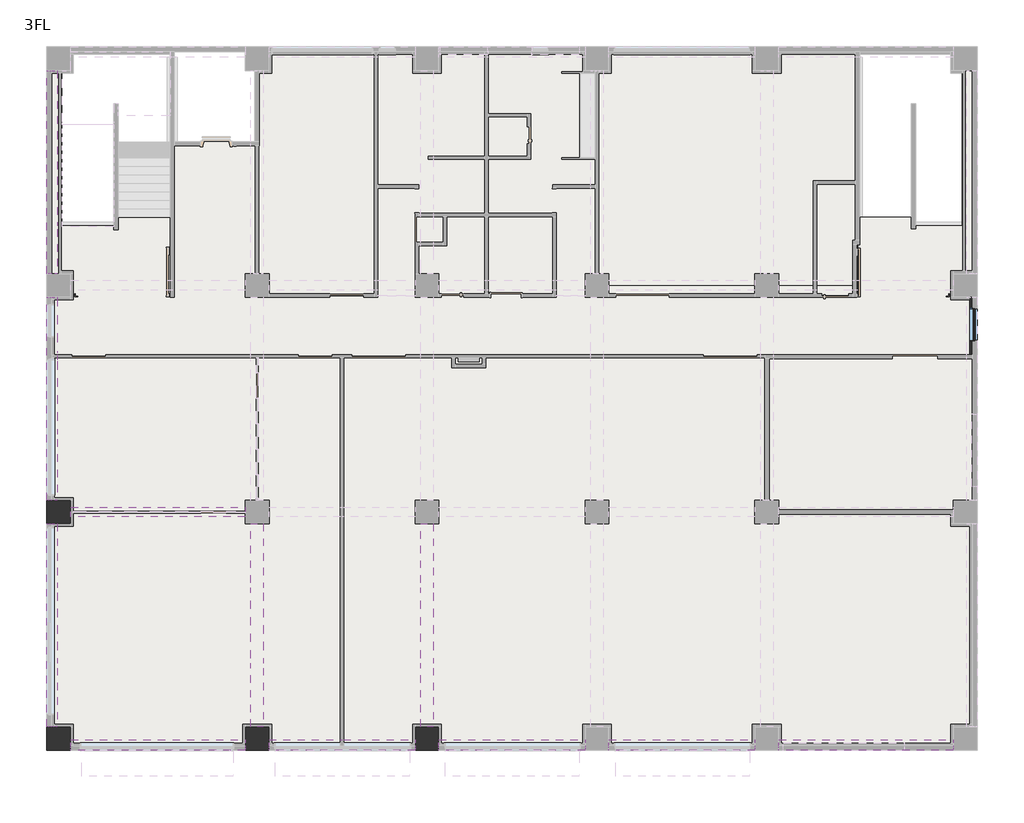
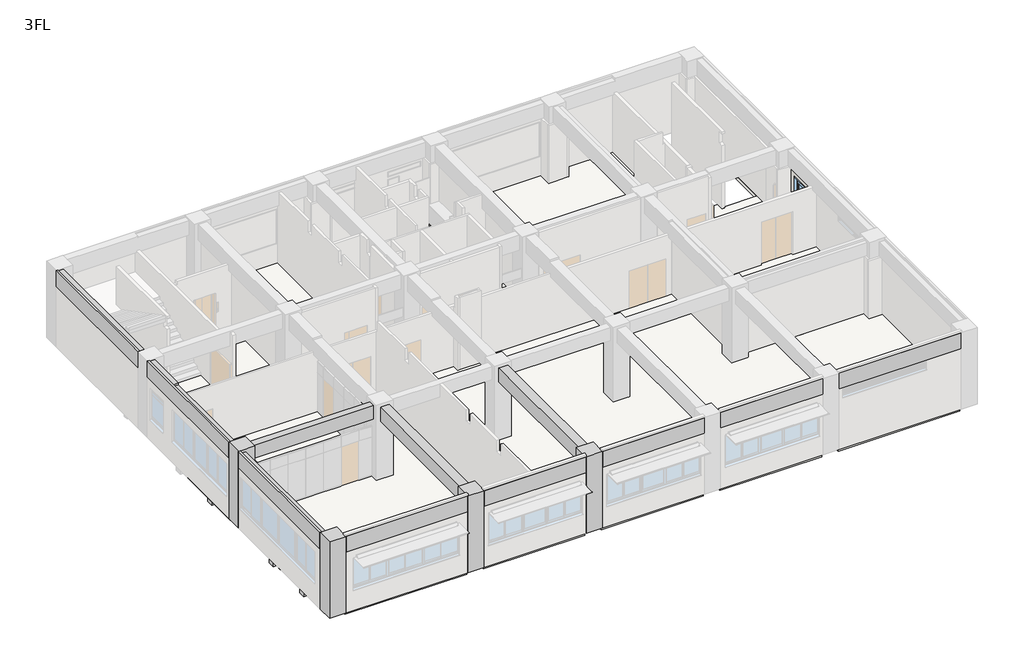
# One storey, part 4 of 6: 16 beams, 4 columns, 4 slabs, 1 wall, 1 window.
"""IFC4 building model written with IfcOpenShell, lengths in millimetres."""

from ifc_helpers import new_model, si_unit, frame, origin, place, context, project, spatial, polyline, outline, extrude, faceted_brep, transform, mapped, element, save
from components import aw6a_a2a86f3e

model = new_model("IFC4")

# Units and contexts
model_context = context("Model", 3, world=origin())
ifc_project = project(units=[si_unit("LENGTHUNIT", "METRE", prefix="MILLI")], contexts=[model_context])

# Site, building, storey
site = spatial("IfcSite", under=ifc_project)
building = spatial("IfcBuilding", under=site)
storey = spatial("IfcBuildingStorey", under=building, Name="3FL", Elevation=8200.0)

# Beams
placement = place(None, origin())
element("IfcBeam", 1, ObjectType="営_RC梁 : 2-RG1 350*850", at=placement, inside=storey, context=model_context, shape_type="Brep", body=[
    faceted_brep([(6580.0, -420.0, 11350.0), (6580.0, -420.0, 12200.0), (420.0, -420.0, 12200.0), (420.0, -420.0, 11350.0), (6580.0, -50.0, 11350.0), (6580.0, -250.0, 11350.0), (420.0, -250.0, 11350.0), (420.0, -50.0, 11350.0), (420.0, -50.0, 12050.0), (6580.0, -50.0, 12050.0), (6580.0, -325.0, 12200.0), (420.0, -325.0, 12200.0), (6580.0, -325.0, 12050.0), (420.0, -325.0, 12050.0)], [[[0, 1, 2, 3]], [[4, 5, 0, 3, 6, 7]], [[4, 7, 8, 9]], [[2, 1, 10, 11]], [[1, 0, 5, 4, 9, 12, 10]], [[3, 2, 11, 13, 8, 7, 6]], [[13, 12, 9, 8]], [[12, 13, 11, 10]]]),
])
element("IfcBeam", 2, ObjectType="営_RC梁 : 2-RG1 350*850", at=placement, inside=storey, context=model_context, shape_type="Brep", body=[
    faceted_brep([(7420.0, -420.0, 12200.0), (7420.0, -420.0, 11350.0), (12580.0, -420.0, 11350.0), (12580.0, -420.0, 12200.0), (7420.0, -250.0, 11350.0), (7420.0, -50.0, 11350.0), (9940.0, -50.0, 11350.0), (10060.0, -50.0, 11350.0), (12580.0, -50.0, 11350.0), (12580.0, -250.0, 11350.0), (7420.0, -50.0, 12050.0), (9940.0, -50.0, 12050.0), (10060.0, -50.0, 12050.0), (12580.0, -50.0, 12050.0), (12580.0, -325.0, 12200.0), (7420.0, -325.0, 12200.0), (7420.0, -325.0, 12050.0), (12580.0, -325.0, 12050.0)], [[[0, 1, 2, 3]], [[1, 4, 5, 6, 7, 8, 9, 2]], [[8, 7, 6, 5, 10, 11, 12, 13]], [[0, 3, 14, 15]], [[1, 0, 15, 16, 10, 5, 4]], [[3, 2, 9, 8, 13, 17, 14]], [[16, 17, 13, 12, 11, 10]], [[17, 16, 15, 14]]]),
])
element("IfcBeam", 3, ObjectType="営_RC梁 : 2-RG1 350*850", at=placement, inside=storey, context=model_context, shape_type="Brep", body=[
    faceted_brep([(13420.0, -420.0, 12200.0), (13420.0, -420.0, 11350.0), (18580.0, -420.0, 11350.0), (18580.0, -420.0, 12200.0), (13420.0, -250.0, 11350.0), (13420.0, -50.0, 11350.0), (18580.0, -50.0, 11350.0), (18580.0, -250.0, 11350.0), (13420.0, -50.0, 12050.0), (18580.0, -50.0, 12050.0), (18580.0, -325.0, 12200.0), (13420.0, -325.0, 12200.0), (13420.0, -325.0, 12050.0), (18580.0, -325.0, 12050.0)], [[[0, 1, 2, 3]], [[1, 4, 5, 6, 7, 2]], [[6, 5, 8, 9]], [[0, 3, 10, 11]], [[1, 0, 11, 12, 8, 5, 4]], [[3, 2, 7, 6, 9, 13, 10]], [[12, 13, 9, 8]], [[13, 12, 11, 10]]]),
])
element("IfcBeam", 4, ObjectType="営_RC梁 : 2-RG1 350*850", at=placement, inside=storey, context=model_context, shape_type="Brep", body=[
    faceted_brep([(19420.0, -420.0, 12200.0), (19420.0, -420.0, 11350.0), (24580.0, -420.0, 11350.0), (24580.0, -420.0, 12200.0), (19420.0, -250.0, 11350.0), (19420.0, -50.0, 11350.0), (24580.0, -50.0, 11350.0), (24580.0, -250.0, 11350.0), (19420.0, -50.0, 12050.0), (24580.0, -50.0, 12050.0), (24580.0, -325.0, 12200.0), (19420.0, -325.0, 12200.0), (19420.0, -325.0, 12050.0), (24580.0, -325.0, 12050.0)], [[[0, 1, 2, 3]], [[1, 4, 5, 6, 7, 2]], [[6, 5, 8, 9]], [[0, 3, 10, 11]], [[1, 0, 11, 12, 8, 5, 4]], [[3, 2, 7, 6, 9, 13, 10]], [[12, 13, 9, 8]], [[13, 12, 11, 10]]]),
])
element("IfcBeam", 5, ObjectType="営_RC梁 : 2-RG1 350*850", at=placement, inside=storey, context=model_context, shape_type="Brep", body=[
    faceted_brep([(25420.0, -420.0, 12200.0), (25420.0, -420.0, 11350.0), (31580.0, -420.0, 11350.0), (31580.0, -420.0, 12200.0), (25420.0, -250.0, 11350.0), (25420.0, -50.0, 11350.0), (31580.0, -50.0, 11350.0), (31580.0, -250.0, 11350.0), (25420.0, -50.0, 12050.0), (31580.0, -50.0, 12050.0), (31580.0, -325.0, 12200.0), (25420.0, -325.0, 12200.0), (25420.0, -325.0, 12050.0), (31580.0, -325.0, 12050.0)], [[[0, 1, 2, 3]], [[1, 4, 5, 6, 7, 2]], [[6, 5, 8, 9]], [[0, 3, 10, 11]], [[1, 0, 11, 12, 8, 5, 4]], [[3, 2, 7, 6, 9, 13, 10]], [[12, 13, 9, 8]], [[13, 12, 11, 10]]]),
])
element("IfcBeam", 6, ObjectType="営_RC梁 : 2-RG11 350*900", at=placement, inside=storey, context=model_context, shape_type="Brep", body=[
    faceted_brep([(-50.0, 420.0, 11300.0), (-50.0, 7580.0, 11300.0), (-50.0, 7580.0, 12050.0), (-50.0, 5505.0, 12050.0), (-50.0, 5155.0, 12050.0), (-50.0, 2835.0, 12050.0), (-50.0, 2485.0, 12050.0), (-50.0, 420.0, 12050.0), (-420.0, 7580.0, 11300.0), (-250.0, 7580.0, 11300.0), (-160.0, 420.0, 11300.0), (-250.0, 420.0, 11300.0), (-420.0, 420.0, 11300.0), (-420.0, 7580.0, 12200.0), (-420.0, 420.0, 12200.0), (-335.0, 420.0, 12200.0), (-335.0, 7580.0, 12200.0), (-335.0, 7580.0, 12050.0), (-335.0, 420.0, 12050.0)], [[[0, 1, 2, 3, 4, 5, 6, 7]], [[8, 9, 1, 0, 10, 11, 12]], [[13, 8, 12, 14]], [[13, 14, 15, 16]], [[1, 9, 8, 13, 16, 17, 2]], [[12, 11, 10, 0, 7, 18, 15, 14]], [[17, 18, 7, 6, 5, 4, 3, 2]], [[18, 17, 16, 15]]]),
])
element("IfcBeam", 7, ObjectType="営_RC梁 : 2-RG11 350*900", at=placement, inside=storey, context=model_context, shape_type="Brep", body=[
    faceted_brep([(-50.0, 8420.0, 11300.0), (-50.0, 13440.0, 11300.0), (-50.0, 13560.0, 11300.0), (-50.0, 15580.0, 11300.0), (-50.0, 15580.0, 12140.0), (-50.0, 13675.0, 12140.0), (-50.0, 13500.0, 12140.0), (-50.0, 13500.0, 12050.0), (-50.0, 13325.0, 12050.0), (-50.0, 10925.0, 12050.0), (-50.0, 10575.0, 12050.0), (-50.0, 8420.0, 12050.0), (-250.0, 8420.0, 11300.0), (-420.0, 8420.0, 11300.0), (-420.0, 15580.0, 11300.0), (-250.0, 15580.0, 11300.0), (-420.0, 8420.0, 12200.0), (-420.0, 15580.0, 12200.0), (-335.0, 8420.0, 12200.0), (-335.0, 13500.0, 12200.0), (-325.0, 13500.0, 12200.0), (-325.0, 15580.0, 12200.0), (-335.0, 8420.0, 12050.0), (-325.0, 15580.0, 12140.0), (-335.0, 13500.0, 12050.0), (-325.0, 13500.0, 12140.0)], [[[0, 1, 2, 3, 4, 5, 6, 7, 8, 9, 10, 11]], [[0, 12, 13, 14, 15, 3, 2, 1]], [[13, 16, 17, 14]], [[17, 16, 18, 19, 20, 21]], [[13, 12, 0, 11, 22, 18, 16]], [[3, 15, 14, 17, 21, 23, 4]], [[7, 24, 22, 11, 10, 9, 8]], [[24, 19, 18, 22]], [[19, 24, 7, 6, 25, 20]], [[23, 25, 6, 5, 4]], [[25, 23, 21, 20]]]),
])
element("IfcBeam", 8, ObjectType="営_RC梁 : 2-RG11 350*900", at=placement, inside=storey, context=model_context, shape_type="Brep", body=[
    faceted_brep([(-50.0, 16420.0, 11300.0), (-50.0, 23580.0, 11300.0), (-50.0, 23580.0, 12140.0), (-50.0, 18225.0, 12140.0), (-50.0, 17975.0, 12140.0), (-50.0, 16420.0, 12140.0), (-250.0, 16420.0, 11300.0), (-420.0, 16420.0, 11300.0), (-420.0, 23580.0, 11300.0), (-250.0, 23580.0, 11300.0), (-420.0, 16420.0, 12200.0), (-420.0, 23580.0, 12200.0), (-325.0, 16420.0, 12200.0), (-325.0, 23580.0, 12200.0), (-325.0, 16420.0, 12140.0), (-325.0, 23580.0, 12140.0)], [[[0, 1, 2, 3, 4, 5]], [[0, 6, 7, 8, 9, 1]], [[7, 10, 11, 8]], [[11, 10, 12, 13]], [[7, 6, 0, 5, 14, 12, 10]], [[1, 9, 8, 11, 13, 15, 2]], [[15, 14, 5, 4, 3, 2]], [[14, 15, 13, 12]]]),
])
element("IfcBeam", 9, ObjectType="営_RC梁 : 2-RG2 350*850", at=placement, inside=storey, context=model_context, shape_type="SweptSolid", body=[
    extrude(outline(polyline([(6580.0, 8175.0), (6580.0, 7825.0), (420.0, 7825.0), (420.0, 8175.0), (6580.0, 8175.0)])), frame((0.0, 0.0, 11350.0), z_axis=(0.0, 0.0, 1.0), x_axis=(1.0, 0.0, 0.0)), (0.0, 0.0, 1.0), 700.0),
])
element("IfcBeam", 10, ObjectType="営_RC梁 : 2-4G12 450*900", at=placement, inside=storey, context=model_context, shape_type="Brep", body=[
    faceted_brep([(7225.0, 420.0, 11300.0), (7225.0, 7580.0, 11300.0), (7225.0, 7580.0, 12050.0), (7225.0, 5505.0, 12050.0), (7225.0, 5155.0, 12050.0), (7225.0, 2835.0, 12050.0), (7225.0, 2485.0, 12050.0), (7225.0, 420.0, 12050.0), (6775.0, 420.0, 11300.0), (6775.0, 7580.0, 11300.0), (6775.0, 420.0, 12050.0), (6775.0, 2485.0, 12050.0), (6775.0, 2835.0, 12050.0), (6775.0, 5155.0, 12050.0), (6775.0, 5505.0, 12050.0), (6775.0, 7580.0, 12050.0)], [[[0, 1, 2, 3, 4, 5, 6, 7]], [[0, 8, 9, 1]], [[9, 8, 10, 11, 12, 13, 14, 15]], [[8, 0, 7, 10]], [[1, 9, 15, 2]], [[7, 6, 5, 4, 3, 2, 15, 14, 13, 12, 11, 10]]]),
])
element("IfcBeam", 11, ObjectType="営_RC梁 : 2-4G12 450*900", at=placement, inside=storey, context=model_context, shape_type="Brep", body=[
    faceted_brep([(13225.0, 420.0, 11300.0), (13225.0, 7580.0, 11300.0), (13225.0, 7580.0, 12050.0), (13225.0, 5505.0, 12050.0), (13225.0, 5155.0, 12050.0), (13225.0, 2835.0, 12050.0), (13225.0, 2485.0, 12050.0), (13225.0, 420.0, 12050.0), (12775.0, 420.0, 11300.0), (12775.0, 7580.0, 11300.0), (12775.0, 420.0, 12050.0), (12775.0, 2485.0, 12050.0), (12775.0, 2835.0, 12050.0), (12775.0, 5155.0, 12050.0), (12775.0, 5505.0, 12050.0), (12775.0, 7580.0, 12050.0)], [[[0, 1, 2, 3, 4, 5, 6, 7]], [[0, 8, 9, 1]], [[9, 8, 10, 11, 12, 13, 14, 15]], [[8, 0, 7, 10]], [[1, 9, 15, 2]], [[7, 6, 5, 4, 3, 2, 15, 14, 13, 12, 11, 10]]]),
])
element("IfcBeam", 12, ObjectType="営_RC梁 : B2 350*750", at=placement, inside=storey, context=model_context, shape_type="SweptSolid", body=[
    extrude(outline(polyline([(7225.0, 5155.0), (7225.0, 5505.0), (12775.0, 5505.0), (12775.0, 5155.0), (7225.0, 5155.0)])), frame((0.0, 0.0, 7350.0), z_axis=(0.0, 0.0, 1.0), x_axis=(1.0, 0.0, 0.0)), (0.0, 0.0, 1.0), 600.0),
])
element("IfcBeam", 13, ObjectType="営_RC梁 : B2 350*750", at=placement, inside=storey, context=model_context, shape_type="SweptSolid", body=[
    extrude(outline(polyline([(7225.0, 2485.0), (7225.0, 2835.0), (12775.0, 2835.0), (12775.0, 2485.0), (7225.0, 2485.0)])), frame((0.0, 0.0, 7350.0), z_axis=(0.0, 0.0, 1.0), x_axis=(1.0, 0.0, 0.0)), (0.0, 0.0, 1.0), 600.0),
])
element("IfcBeam", 14, ObjectType="営_RC梁 : B1 350*750", at=placement, inside=storey, context=model_context, shape_type="SweptSolid", body=[
    extrude(outline(polyline([(6775.0, 5505.0), (6775.0, 5155.0), (-50.0, 5155.0), (-50.0, 5505.0), (6775.0, 5505.0)])), frame((0.0, 0.0, 7350.0), z_axis=(0.0, 0.0, 1.0), x_axis=(1.0, 0.0, 0.0)), (0.0, 0.0, 1.0), 600.0),
])
element("IfcBeam", 15, ObjectType="営_RC梁 : B1 350*750", at=placement, inside=storey, context=model_context, shape_type="SweptSolid", body=[
    extrude(outline(polyline([(6775.0, 2835.0), (6775.0, 2485.0), (-50.0, 2485.0), (-50.0, 2835.0), (6775.0, 2835.0)])), frame((0.0, 0.0, 7350.0), z_axis=(0.0, 0.0, 1.0), x_axis=(1.0, 0.0, 0.0)), (0.0, 0.0, 1.0), 600.0),
])
element("IfcBeam", 16, ObjectType="営_RC梁 : B1 350*750", at=placement, inside=storey, context=model_context, shape_type="SweptSolid", body=[
    extrude(outline(polyline([(-50.0, 10575.0), (-50.0, 10925.0), (6775.0, 10925.0), (6775.0, 10575.0), (-50.0, 10575.0)])), frame((0.0, 0.0, 7350.0), z_axis=(0.0, 0.0, 1.0), x_axis=(1.0, 0.0, 0.0)), (0.0, 0.0, 1.0), 600.0),
])

# Columns
element("IfcColumn", 17, ObjectType="営_RC柱_角 : 800*800", at=placement, inside=storey, context=model_context, shape_type="Brep", body=[
    faceted_brep([(7420.0, 420.0, 8100.0), (7420.0, -250.0, 8100.0), (7420.0, -420.0, 8100.0), (6580.0, -420.0, 8100.0), (6580.0, -250.0, 8100.0), (6580.0, 420.0, 8100.0), (7420.0, 420.0, 12200.0), (7420.0, -325.0, 12200.0), (7420.0, -420.0, 12200.0), (7420.0, -420.0, 11350.0), (7420.0, 420.0, 8180.0), (7420.0, 420.0, 8190.0), (7420.0, 420.0, 12050.0), (7395.0, -420.0, 12200.0), (6605.0, -420.0, 12200.0), (6580.0, -420.0, 12200.0), (6580.0, -420.0, 11350.0), (6580.0, -325.0, 12200.0), (6580.0, 420.0, 12200.0), (6580.0, 420.0, 12050.0), (6580.0, 420.0, 8190.0), (6580.0, 420.0, 8180.0)], [[[0, 1, 2, 3, 4, 5]], [[6, 7, 8, 9, 2, 1, 0, 10, 11, 12]], [[8, 13, 14, 15, 16, 3, 2, 9]], [[15, 17, 18, 19, 20, 21, 5, 4, 3, 16]], [[18, 6, 12, 11, 10, 0, 5, 21, 20, 19]], [[6, 18, 17, 15, 14, 13, 8, 7]]]),
])
element("IfcColumn", 18, ObjectType="営_RC柱_角 : 800*800", at=placement, inside=storey, context=model_context, shape_type="Brep", body=[
    faceted_brep([(13420.0, 420.0, 8100.0), (13420.0, -250.0, 8100.0), (13420.0, -420.0, 8100.0), (12580.0, -420.0, 8100.0), (12580.0, -250.0, 8100.0), (12580.0, 420.0, 8100.0), (13420.0, 420.0, 12200.0), (13420.0, -325.0, 12200.0), (13420.0, -420.0, 12200.0), (13420.0, -420.0, 11350.0), (13420.0, 420.0, 8180.0), (13420.0, 420.0, 8190.0), (13420.0, 420.0, 12050.0), (13395.0, -420.0, 12200.0), (12605.0, -420.0, 12200.0), (12580.0, -420.0, 12200.0), (12580.0, -420.0, 11350.0), (12580.0, -325.0, 12200.0), (12580.0, 420.0, 12200.0), (12580.0, 420.0, 12050.0), (12580.0, 420.0, 8190.0), (12580.0, 420.0, 8180.0)], [[[0, 1, 2, 3, 4, 5]], [[6, 7, 8, 9, 2, 1, 0, 10, 11, 12]], [[8, 13, 14, 15, 16, 3, 2, 9]], [[15, 17, 18, 19, 20, 21, 5, 4, 3, 16]], [[18, 6, 12, 11, 10, 0, 5, 21, 20, 19]], [[6, 18, 17, 15, 14, 13, 8, 7]]]),
])
element("IfcColumn", 19, ObjectType="営_RC柱_角 : 800*800", at=placement, inside=storey, context=model_context, shape_type="Brep", body=[
    faceted_brep([(420.0, 420.0, 8100.0), (420.0, -250.0, 8100.0), (420.0, -420.0, 8100.0), (-420.0, -420.0, 8100.0), (-420.0, 420.0, 8100.0), (-250.0, 420.0, 8100.0), (420.0, 420.0, 12200.0), (420.0, -325.0, 12200.0), (420.0, -420.0, 12200.0), (420.0, -420.0, 11350.0), (420.0, 420.0, 8180.0), (420.0, 420.0, 8190.0), (420.0, 420.0, 12050.0), (370.0, -420.0, 12200.0), (-420.0, -420.0, 12200.0), (-420.0, 370.0, 12200.0), (-420.0, 420.0, 12200.0), (-420.0, 420.0, 11300.0), (-335.0, 420.0, 12200.0)], [[[0, 1, 2, 3, 4, 5]], [[6, 7, 8, 9, 2, 1, 0, 10, 11, 12]], [[8, 13, 14, 3, 2, 9]], [[14, 15, 16, 17, 4, 3]], [[16, 18, 6, 12, 11, 10, 0, 5, 4, 17]], [[6, 18, 16, 15, 14, 13, 8, 7]]]),
])
element("IfcColumn", 20, ObjectType="営_RC柱_角 : 800*800", at=placement, inside=storey, context=model_context, shape_type="Brep", body=[
    faceted_brep([(420.0, 8420.0, 8100.0), (420.0, 7580.0, 8100.0), (-250.0, 7580.0, 8100.0), (-420.0, 7580.0, 8100.0), (-420.0, 8420.0, 8100.0), (-250.0, 8420.0, 8100.0), (420.0, 8420.0, 12200.0), (420.0, 7580.0, 12200.0), (420.0, 7580.0, 12050.0), (420.0, 7580.0, 8190.0), (420.0, 7580.0, 8180.0), (420.0, 8420.0, 8180.0), (420.0, 8420.0, 8190.0), (420.0, 8420.0, 12050.0), (-335.0, 7580.0, 12200.0), (-420.0, 7580.0, 12200.0), (-420.0, 7580.0, 11300.0), (-420.0, 7605.0, 12200.0), (-420.0, 8395.0, 12200.0), (-420.0, 8420.0, 12200.0), (-420.0, 8420.0, 11300.0), (-335.0, 8420.0, 12200.0)], [[[0, 1, 2, 3, 4, 5]], [[6, 7, 8, 9, 10, 1, 0, 11, 12, 13]], [[7, 14, 15, 16, 3, 2, 1, 10, 9, 8]], [[15, 17, 18, 19, 20, 4, 3, 16]], [[19, 21, 6, 13, 12, 11, 0, 5, 4, 20]], [[6, 21, 19, 18, 17, 15, 14, 7]]]),
])

# Slabs
element("IfcSlab", 21, ObjectType="(内床)仕上げ", at=placement, inside=storey, context=model_context, shape_type="SweptSolid", body=[
    extrude(outline(polyline([(-250.0, 13500.0), (25000.0, 13500.0), (25000.0, 8420.0), (24580.0, 8420.0), (24580.0, 7580.0), (25420.0, 7580.0), (25420.0, 8000.0), (31580.0, 8000.0), (31580.0, 7580.0), (32250.0, 7580.0), (32250.0, 420.0), (31580.0, 420.0), (31580.0, -250.0), (25420.0, -250.0), (25420.0, 420.0), (24580.0, 420.0), (24580.0, -250.0), (19420.0, -250.0), (19420.0, 420.0), (18580.0, 420.0), (18580.0, -250.0), (13420.0, -250.0), (13420.0, 420.0), (12580.0, 420.0), (12580.0, -250.0), (7420.0, -250.0), (7420.0, 420.0), (6580.0, 420.0), (6580.0, -250.0), (420.0, -250.0), (420.0, 420.0), (-250.0, 420.0), (-250.0, 7580.0), (420.0, 7580.0), (420.0, 8420.0), (-250.0, 8420.0), (-250.0, 13500.0)]), holes=[polyline([(7420.0, 7580.0), (7420.0, 8420.0), (6580.0, 8420.0), (6580.0, 7580.0), (7420.0, 7580.0)]), polyline([(13420.0, 7580.0), (13420.0, 8420.0), (12580.0, 8420.0), (12580.0, 7580.0), (13420.0, 7580.0)]), polyline([(19420.0, 7580.0), (19420.0, 8420.0), (18580.0, 8420.0), (18580.0, 7580.0), (19420.0, 7580.0)])]), frame((0.0, 0.0, 8180.0), z_axis=(0.0, 0.0, 1.0), x_axis=(1.0, 0.0, 0.0)), (0.0, 0.0, 1.0), 10.0),
    extrude(outline(polyline([(11200.0, 24250.0), (11200.0, 15640.0), (7420.0, 15640.0), (7420.0, 16420.0), (7000.0, 16420.0), (7000.0, 23580.0), (7420.0, 23580.0), (7420.0, 24250.0), (11200.0, 24250.0)])), frame((0.0, 0.0, 8180.0), z_axis=(0.0, 0.0, 1.0), x_axis=(1.0, 0.0, 0.0)), (0.0, 0.0, 1.0), 10.0),
    extrude(outline(polyline([(28200.0, 24250.0), (28200.0, 16000.0), (25420.0, 16000.0), (25420.0, 16420.0), (24580.0, 16420.0), (24580.0, 16000.0), (19420.0, 16000.0), (19420.0, 16420.0), (19000.0, 16420.0), (19000.0, 23580.0), (19420.0, 23580.0), (19420.0, 24250.0), (24580.0, 24250.0), (24580.0, 23580.0), (25420.0, 23580.0), (25420.0, 24250.0), (28200.0, 24250.0)])), frame((0.0, 0.0, 8180.0), z_axis=(0.0, 0.0, 1.0), x_axis=(1.0, 0.0, 0.0)), (0.0, 0.0, 1.0), 10.0),
])
element("IfcSlab", 22, ObjectType="(RC)150", at=placement, inside=storey, context=model_context, shape_type="Brep", body=[
    faceted_brep([(-335.0, 13500.0, 7950.0), (-50.0, 13500.0, 7950.0), (6775.0, 13500.0, 7950.0), (7225.0, 13500.0, 7950.0), (12775.0, 13500.0, 7950.0), (13225.0, 13500.0, 7950.0), (18775.0, 13500.0, 7950.0), (19225.0, 13500.0, 7950.0), (24775.0, 13500.0, 7950.0), (25000.0, 13500.0, 7950.0), (25000.0, 8420.0, 7950.0), (24775.0, 8420.0, 7950.0), (24580.0, 8420.0, 7950.0), (24580.0, 8175.0, 7950.0), (24580.0, 7825.0, 7950.0), (24580.0, 7580.0, 7950.0), (24775.0, 7580.0, 7950.0), (25225.0, 7580.0, 7950.0), (25420.0, 7580.0, 7950.0), (25420.0, 7825.0, 7950.0), (25420.0, 8000.0, 7950.0), (31580.0, 8000.0, 7950.0), (31580.0, 7825.0, 7950.0), (31580.0, 7580.0, 7950.0), (32050.0, 7580.0, 7950.0), (32325.0, 7580.0, 7950.0), (32325.0, 420.0, 7950.0), (32050.0, 420.0, 7950.0), (31580.0, 420.0, 7950.0), (31580.0, -50.0, 7950.0), (31580.0, -325.0, 7950.0), (25420.0, -325.0, 7950.0), (25420.0, -50.0, 7950.0), (25420.0, 420.0, 7950.0), (25225.0, 420.0, 7950.0), (24775.0, 420.0, 7950.0), (24580.0, 420.0, 7950.0), (24580.0, -50.0, 7950.0), (24580.0, -325.0, 7950.0), (19420.0, -325.0, 7950.0), (19420.0, -50.0, 7950.0), (19420.0, 420.0, 7950.0), (19225.0, 420.0, 7950.0), (18775.0, 420.0, 7950.0), (18580.0, 420.0, 7950.0), (18580.0, -50.0, 7950.0), (18580.0, -325.0, 7950.0), (13420.0, -325.0, 7950.0), (13420.0, -50.0, 7950.0), (13420.0, 420.0, 7950.0), (13225.0, 420.0, 7950.0), (12775.0, 420.0, 7950.0), (12580.0, 420.0, 7950.0), (12580.0, -50.0, 7950.0), (12580.0, -325.0, 7950.0), (7420.0, -325.0, 7950.0), (7420.0, -50.0, 7950.0), (7420.0, 420.0, 7950.0), (7225.0, 420.0, 7950.0), (6775.0, 420.0, 7950.0), (6580.0, 420.0, 7950.0), (6580.0, -50.0, 7950.0), (6580.0, -325.0, 7950.0), (420.0, -325.0, 7950.0), (420.0, -50.0, 7950.0), (420.0, 420.0, 7950.0), (-50.0, 420.0, 7950.0), (-335.0, 420.0, 7950.0), (-335.0, 7580.0, 7950.0), (-50.0, 7580.0, 7950.0), (420.0, 7580.0, 7950.0), (420.0, 7825.0, 7950.0), (420.0, 8175.0, 7950.0), (420.0, 8420.0, 7950.0), (-50.0, 8420.0, 7950.0), (-335.0, 8420.0, 7950.0), (7420.0, 7580.0, 7950.0), (7420.0, 7825.0, 7950.0), (7420.0, 8175.0, 7950.0), (7420.0, 8420.0, 7950.0), (7225.0, 8420.0, 7950.0), (6775.0, 8420.0, 7950.0), (6580.0, 8420.0, 7950.0), (6580.0, 8175.0, 7950.0), (6580.0, 7825.0, 7950.0), (6580.0, 7580.0, 7950.0), (6775.0, 7580.0, 7950.0), (7225.0, 7580.0, 7950.0), (13420.0, 7580.0, 7950.0), (13420.0, 7825.0, 7950.0), (13420.0, 8175.0, 7950.0), (13420.0, 8420.0, 7950.0), (13225.0, 8420.0, 7950.0), (12775.0, 8420.0, 7950.0), (12580.0, 8420.0, 7950.0), (12580.0, 8175.0, 7950.0), (12580.0, 7825.0, 7950.0), (12580.0, 7580.0, 7950.0), (12775.0, 7580.0, 7950.0), (13225.0, 7580.0, 7950.0), (19420.0, 7580.0, 7950.0), (19420.0, 7825.0, 7950.0), (19420.0, 8175.0, 7950.0), (19420.0, 8420.0, 7950.0), (19225.0, 8420.0, 7950.0), (18775.0, 8420.0, 7950.0), (18580.0, 8420.0, 7950.0), (18580.0, 8175.0, 7950.0), (18580.0, 7825.0, 7950.0), (18580.0, 7580.0, 7950.0), (18775.0, 7580.0, 7950.0), (19225.0, 7580.0, 7950.0), (25000.0, 13500.0, 8100.0), (-325.0, 13500.0, 8100.0), (-335.0, 13500.0, 8100.0), (-335.0, 8420.0, 8100.0), (-250.0, 8420.0, 8100.0), (420.0, 8420.0, 8100.0), (420.0, 7580.0, 8100.0), (-250.0, 7580.0, 8100.0), (-335.0, 7580.0, 8100.0), (-335.0, 420.0, 8100.0), (-250.0, 420.0, 8100.0), (420.0, 420.0, 8100.0), (420.0, -250.0, 8100.0), (420.0, -325.0, 8100.0), (6580.0, -325.0, 8100.0), (6580.0, -250.0, 8100.0), (6580.0, 420.0, 8100.0), (7420.0, 420.0, 8100.0), (7420.0, -250.0, 8100.0), (7420.0, -325.0, 8100.0), (12580.0, -325.0, 8100.0), (12580.0, -250.0, 8100.0), (12580.0, 420.0, 8100.0), (13420.0, 420.0, 8100.0), (13420.0, -250.0, 8100.0), (13420.0, -325.0, 8100.0), (18580.0, -325.0, 8100.0), (18580.0, -250.0, 8100.0), (18580.0, 420.0, 8100.0), (19420.0, 420.0, 8100.0), (19420.0, -250.0, 8100.0), (19420.0, -325.0, 8100.0), (24580.0, -325.0, 8100.0), (24580.0, -250.0, 8100.0), (24580.0, 420.0, 8100.0), (25420.0, 420.0, 8100.0), (25420.0, -250.0, 8100.0), (25420.0, -325.0, 8100.0), (31580.0, -325.0, 8100.0), (31580.0, -250.0, 8100.0), (31580.0, 420.0, 8100.0), (32325.0, 420.0, 8100.0), (32325.0, 7580.0, 8100.0), (31580.0, 7580.0, 8100.0), (31580.0, 8000.0, 8100.0), (25420.0, 8000.0, 8100.0), (25420.0, 7580.0, 8100.0), (24580.0, 7580.0, 8100.0), (24580.0, 8420.0, 8100.0), (25000.0, 8420.0, 8100.0), (7420.0, 8420.0, 8100.0), (7420.0, 7580.0, 8100.0), (6580.0, 7580.0, 8100.0), (6580.0, 8420.0, 8100.0), (13420.0, 8420.0, 8100.0), (13420.0, 7580.0, 8100.0), (12580.0, 7580.0, 8100.0), (12580.0, 8420.0, 8100.0), (19420.0, 8420.0, 8100.0), (19420.0, 7580.0, 8100.0), (18580.0, 7580.0, 8100.0), (18580.0, 8420.0, 8100.0), (25000.0, 13500.0, 8040.0), (25420.0, 8000.0, 8040.0), (25000.0, 8420.0, 8040.0), (31580.0, 8000.0, 8040.0)], [[[0, 1, 2, 3, 4, 5, 6, 7, 8, 9, 10, 11, 12, 13, 14, 15, 16, 17, 18, 19, 20, 21, 22, 23, 24, 25, 26, 27, 28, 29, 30, 31, 32, 33, 34, 35, 36, 37, 38, 39, 40, 41, 42, 43, 44, 45, 46, 47, 48, 49, 50, 51, 52, 53, 54, 55, 56, 57, 58, 59, 60, 61, 62, 63, 64, 65, 66, 67, 68, 69, 70, 71, 72, 73, 74, 75], [76, 77, 78, 79, 80, 81, 82, 83, 84, 85, 86, 87], [88, 89, 90, 91, 92, 93, 94, 95, 96, 97, 98, 99], [100, 101, 102, 103, 104, 105, 106, 107, 108, 109, 110, 111]], [[112, 113, 114, 115, 116, 117, 118, 119, 120, 121, 122, 123, 124, 125, 126, 127, 128, 129, 130, 131, 132, 133, 134, 135, 136, 137, 138, 139, 140, 141, 142, 143, 144, 145, 146, 147, 148, 149, 150, 151, 152, 153, 154, 155, 156, 157, 158, 159, 160, 161], [162, 163, 164, 165], [166, 167, 168, 169], [170, 171, 172, 173]], [[62, 126, 125, 63]], [[131, 55, 54, 132]], [[137, 47, 46, 138]], [[143, 39, 38, 144]], [[149, 31, 30, 150]], [[67, 121, 120, 68]], [[114, 0, 75, 115]], [[9, 8, 7, 6, 5, 4, 3, 2, 1, 0, 114, 113, 112, 174]], [[153, 26, 25, 154]], [[129, 57, 56, 55, 131, 130]], [[60, 128, 127, 126, 62, 61]], [[128, 60, 59, 58, 57, 129]], [[135, 49, 48, 47, 137, 136]], [[52, 134, 133, 132, 54, 53]], [[134, 52, 51, 50, 49, 135]], [[141, 41, 40, 39, 143, 142]], [[44, 140, 139, 138, 46, 45]], [[140, 44, 43, 42, 41, 141]], [[147, 33, 32, 31, 149, 148]], [[36, 146, 145, 144, 38, 37]], [[146, 36, 35, 34, 33, 147]], [[28, 152, 151, 150, 30, 29]], [[152, 28, 27, 26, 153]], [[123, 65, 64, 63, 125, 124]], [[65, 123, 122, 121, 67, 66]], [[76, 163, 162, 79, 78, 77]], [[163, 76, 87, 86, 85, 164]], [[164, 85, 84, 83, 82, 165]], [[165, 82, 81, 80, 79, 162]], [[88, 167, 166, 91, 90, 89]], [[167, 88, 99, 98, 97, 168]], [[168, 97, 96, 95, 94, 169]], [[169, 94, 93, 92, 91, 166]], [[100, 171, 170, 103, 102, 101]], [[171, 100, 111, 110, 109, 172]], [[172, 109, 108, 107, 106, 173]], [[173, 106, 105, 104, 103, 170]], [[18, 158, 157, 175, 20, 19]], [[158, 18, 17, 16, 15, 159]], [[159, 15, 14, 13, 12, 160]], [[160, 12, 11, 10, 176, 161]], [[23, 155, 154, 25, 24]], [[155, 23, 22, 21, 177, 156]], [[70, 118, 117, 73, 72, 71]], [[118, 70, 69, 68, 120, 119]], [[73, 117, 116, 115, 75, 74]], [[9, 174, 112, 161, 176, 10]], [[20, 175, 157, 156, 177, 21]]]),
])
element("IfcSlab", 23, ObjectType="(RC)150", at=placement, inside=storey, context=model_context, shape_type="Brep", body=[
    faceted_brep([(7420.0, 15580.0, 8040.0), (7420.0, 15640.0, 8040.0), (11200.0, 15640.0, 8040.0), (11200.0, 15825.0, 8040.0), (11200.0, 16175.0, 8040.0), (11200.0, 18495.0, 8040.0), (11200.0, 18845.0, 8040.0), (11200.0, 21165.0, 8040.0), (11200.0, 21515.0, 8040.0), (11200.0, 24050.0, 8040.0), (11200.0, 24335.0, 8040.0), (12580.0, 24335.0, 8040.0), (12580.0, 24050.0, 8040.0), (12580.0, 23580.0, 8040.0), (12775.0, 23580.0, 8040.0), (13225.0, 23580.0, 8040.0), (13420.0, 23580.0, 8040.0), (13420.0, 24050.0, 8040.0), (13420.0, 24335.0, 8040.0), (18580.0, 24335.0, 8040.0), (18580.0, 24050.0, 8040.0), (18580.0, 23580.0, 8040.0), (18775.0, 23580.0, 8040.0), (19000.0, 23580.0, 8040.0), (19000.0, 16420.0, 8040.0), (18775.0, 16420.0, 8040.0), (18580.0, 16420.0, 8040.0), (18580.0, 16175.0, 8040.0), (18580.0, 15825.0, 8040.0), (18580.0, 15580.0, 8040.0), (18775.0, 15580.0, 8040.0), (19225.0, 15580.0, 8040.0), (19420.0, 15580.0, 8040.0), (19420.0, 15640.0, 8040.0), (24580.0, 15640.0, 8040.0), (24580.0, 15580.0, 8040.0), (24775.0, 15580.0, 8040.0), (25225.0, 15580.0, 8040.0), (25420.0, 15580.0, 8040.0), (25420.0, 15640.0, 8040.0), (28200.0, 15640.0, 8040.0), (28200.0, 15825.0, 8040.0), (28200.0, 16175.0, 8040.0), (28200.0, 18400.0, 8040.0), (28374.0, 18400.0, 8040.0), (30105.0, 18400.0, 8040.0), (30105.0, 18225.0, 8040.0), (30105.0, 18005.0, 8040.0), (30255.0, 18005.0, 8040.0), (30255.0, 18100.0, 8040.0), (31900.0, 18100.0, 8040.0), (31900.0, 18225.0, 8040.0), (31900.0, 23580.0, 8040.0), (32050.0, 23580.0, 8040.0), (32250.0, 23580.0, 8040.0), (32250.0, 16420.0, 8040.0), (32050.0, 16420.0, 8040.0), (31580.0, 16420.0, 8040.0), (31580.0, 16175.0, 8040.0), (31580.0, 15825.0, 8040.0), (31580.0, 15580.0, 8040.0), (32050.0, 15580.0, 8040.0), (32250.0, 15580.0, 8040.0), (32250.0, 8420.0, 8040.0), (32050.0, 8420.0, 8040.0), (31580.0, 8420.0, 8040.0), (31580.0, 8175.0, 8040.0), (31580.0, 8000.0, 8040.0), (31580.0, 7925.0, 8040.0), (25420.0, 7925.0, 8040.0), (25420.0, 8000.0, 8040.0), (25420.0, 8175.0, 8040.0), (25420.0, 8420.0, 8040.0), (25225.0, 8420.0, 8040.0), (25000.0, 8420.0, 8040.0), (25000.0, 13500.0, 8040.0), (24775.0, 13500.0, 8040.0), (19225.0, 13500.0, 8040.0), (18775.0, 13500.0, 8040.0), (13225.0, 13500.0, 8040.0), (12775.0, 13500.0, 8040.0), (7225.0, 13500.0, 8040.0), (6775.0, 13500.0, 8040.0), (-50.0, 13500.0, 8040.0), (-250.0, 13500.0, 8040.0), (-250.0, 15580.0, 8040.0), (-50.0, 15580.0, 8040.0), (420.0, 15580.0, 8040.0), (420.0, 15825.0, 8040.0), (420.0, 16175.0, 8040.0), (420.0, 16420.0, 8040.0), (-50.0, 16420.0, 8040.0), (-250.0, 16420.0, 8040.0), (-250.0, 23580.0, 8040.0), (-50.0, 23580.0, 8040.0), (100.0, 23580.0, 8040.0), (100.0, 18225.0, 8040.0), (100.0, 18100.0, 8040.0), (1945.0, 18100.0, 8040.0), (1945.0, 18005.0, 8040.0), (2095.0, 18005.0, 8040.0), (2095.0, 18225.0, 8040.0), (2095.0, 18400.0, 8040.0), (3825.0, 18400.0, 8040.0), (4000.0, 18400.0, 8040.0), (4000.0, 21075.0, 8040.0), (4175.0, 21075.0, 8040.0), (4306.3, 21075.0, 8040.0), (6775.0, 21075.0, 8040.0), (7000.0, 21075.0, 8040.0), (7000.0, 16420.0, 8040.0), (6775.0, 16420.0, 8040.0), (6580.0, 16420.0, 8040.0), (6580.0, 16175.0, 8040.0), (6580.0, 15825.0, 8040.0), (6580.0, 15580.0, 8040.0), (6775.0, 15580.0, 8040.0), (7225.0, 15580.0, 8040.0), (13420.0, 15580.0, 8040.0), (13420.0, 15825.0, 8040.0), (13420.0, 16175.0, 8040.0), (13420.0, 16420.0, 8040.0), (13225.0, 16420.0, 8040.0), (12775.0, 16420.0, 8040.0), (12580.0, 16420.0, 8040.0), (12580.0, 16175.0, 8040.0), (12580.0, 15825.0, 8040.0), (12580.0, 15580.0, 8040.0), (12775.0, 15580.0, 8040.0), (13225.0, 15580.0, 8040.0), (-325.0, 13500.0, 8190.0), (25000.0, 13500.0, 8190.0), (25000.0, 8420.0, 8190.0), (25420.0, 8420.0, 8190.0), (25420.0, 7925.0, 8190.0), (31580.0, 7925.0, 8190.0), (31580.0, 8420.0, 8190.0), (32325.0, 8420.0, 8190.0), (32325.0, 15580.0, 8190.0), (31580.0, 15580.0, 8190.0), (31580.0, 16420.0, 8190.0), (32325.0, 16420.0, 8190.0), (32325.0, 16669.8819845, 8190.0), (32325.0, 23580.0, 8190.0), (31900.0, 23580.0, 8190.0), (31900.0, 18100.0, 8190.0), (30255.0, 18100.0, 8190.0), (30255.0, 18005.0, 8190.0), (30105.0, 18005.0, 8190.0), (30105.0, 18400.0, 8190.0), (28200.0, 18400.0, 8190.0), (28200.0, 15640.0, 8190.0), (25420.0, 15640.0, 8190.0), (25420.0, 15580.0, 8190.0), (24580.0, 15580.0, 8190.0), (24580.0, 15640.0, 8190.0), (19420.0, 15640.0, 8190.0), (19420.0, 15580.0, 8190.0), (18580.0, 15580.0, 8190.0), (18580.0, 16420.0, 8190.0), (19000.0, 16420.0, 8190.0), (19000.0, 23580.0, 8190.0), (18580.0, 23580.0, 8190.0), (18580.0, 24335.0, 8190.0), (13420.0, 24335.0, 8190.0), (13420.0, 23580.0, 8190.0), (12580.0, 23580.0, 8190.0), (12580.0, 24335.0, 8190.0), (11200.0, 24335.0, 8190.0), (11200.0, 15640.0, 8190.0), (7420.0, 15640.0, 8190.0), (7420.0, 15580.0, 8190.0), (6580.0, 15580.0, 8190.0), (6580.0, 16420.0, 8190.0), (7000.0, 16420.0, 8190.0), (7000.0, 21075.0, 8190.0), (4000.0, 21075.0, 8190.0), (4000.0, 18400.0, 8190.0), (2095.0, 18400.0, 8190.0), (2095.0, 18005.0, 8190.0), (1945.0, 18005.0, 8190.0), (1945.0, 18100.0, 8190.0), (100.0, 18100.0, 8190.0), (100.0, 23580.0, 8190.0), (-325.0, 23580.0, 8190.0), (-325.0, 16420.0, 8190.0), (420.0, 16420.0, 8190.0), (420.0, 15580.0, 8190.0), (-325.0, 15580.0, 8190.0), (13420.0, 16420.0, 8190.0), (13420.0, 15580.0, 8190.0), (12580.0, 15580.0, 8190.0), (12580.0, 16420.0, 8190.0), (32325.0, 16669.8819845, 8100.0), (32325.0, 16420.0, 8100.0), (32325.0, 8420.0, 8100.0), (32325.0, 15580.0, 8100.0), (-325.0, 13500.0, 8100.0), (-250.0, 13500.0, 8100.0), (11200.0, 24335.0, 8100.0), (12580.0, 24335.0, 8100.0), (18580.0, 24335.0, 8100.0), (13420.0, 24335.0, 8100.0), (32325.0, 23580.0, 8100.0), (-325.0, 23580.0, 8100.0), (-325.0, 16420.0, 8100.0), (-325.0, 15580.0, 8100.0), (7420.0, 15580.0, 8100.0), (7420.0, 15640.0, 8100.0), (6580.0, 15580.0, 8100.0), (6580.0, 16420.0, 8100.0), (7000.0, 16420.0, 8100.0), (13420.0, 15580.0, 8100.0), (13420.0, 16420.0, 8100.0), (12580.0, 15580.0, 8100.0), (12580.0, 16420.0, 8100.0), (19420.0, 15580.0, 8100.0), (19420.0, 15640.0, 8100.0), (18580.0, 15580.0, 8100.0), (18580.0, 16420.0, 8100.0), (19000.0, 16420.0, 8100.0), (25420.0, 15580.0, 8100.0), (25420.0, 15640.0, 8100.0), (24580.0, 15580.0, 8100.0), (24580.0, 15640.0, 8100.0), (32250.0, 15580.0, 8100.0), (31580.0, 15580.0, 8100.0), (31580.0, 16420.0, 8100.0), (32250.0, 16420.0, 8100.0), (420.0, 15580.0, 8100.0), (420.0, 16420.0, 8100.0), (-250.0, 15580.0, 8100.0), (-250.0, 16420.0, 8100.0), (13420.0, 23580.0, 8100.0), (12580.0, 23580.0, 8100.0), (19000.0, 23580.0, 8100.0), (18580.0, 23580.0, 8100.0), (-250.0, 23580.0, 8100.0), (32250.0, 8420.0, 8100.0), (32250.0, 23580.0, 8100.0), (100.0, 18100.0, 8100.0), (1945.0, 18100.0, 8100.0), (1945.0, 18005.0, 8100.0), (2095.0, 18005.0, 8100.0), (4000.0, 18400.0, 8100.0), (4000.0, 21075.0, 8100.0), (28200.0, 15640.0, 8100.0), (28200.0, 18400.0, 8100.0), (30105.0, 18005.0, 8100.0), (30255.0, 18005.0, 8100.0), (30255.0, 18100.0, 8100.0), (31900.0, 18100.0, 8100.0), (7000.0, 21075.0, 8100.0), (11200.0, 15640.0, 8100.0), (25420.0, 8420.0, 8100.0), (31580.0, 8420.0, 8100.0)], [[[0, 1, 2, 3, 4, 5, 6, 7, 8, 9, 10, 11, 12, 13, 14, 15, 16, 17, 18, 19, 20, 21, 22, 23, 24, 25, 26, 27, 28, 29, 30, 31, 32, 33, 34, 35, 36, 37, 38, 39, 40, 41, 42, 43, 44, 45, 46, 47, 48, 49, 50, 51, 52, 53, 54, 55, 56, 57, 58, 59, 60, 61, 62, 63, 64, 65, 66, 67, 68, 69, 70, 71, 72, 73, 74, 75, 76, 77, 78, 79, 80, 81, 82, 83, 84, 85, 86, 87, 88, 89, 90, 91, 92, 93, 94, 95, 96, 97, 98, 99, 100, 101, 102, 103, 104, 105, 106, 107, 108, 109, 110, 111, 112, 113, 114, 115, 116, 117], [118, 119, 120, 121, 122, 123, 124, 125, 126, 127, 128, 129]], [[130, 131, 132, 133, 134, 135, 136, 137, 138, 139, 140, 141, 142, 143, 144, 145, 146, 147, 148, 149, 150, 151, 152, 153, 154, 155, 156, 157, 158, 159, 160, 161, 162, 163, 164, 165, 166, 167, 168, 169, 170, 171, 172, 173, 174, 175, 176, 177, 178, 179, 180, 181, 182, 183, 184, 185, 186, 187, 188], [189, 190, 191, 192]], [[193, 142, 141, 194]], [[137, 195, 196, 138]], [[131, 130, 197, 198, 84, 83, 82, 81, 80, 79, 78, 77, 76, 75]], [[11, 10, 199, 168, 167, 200]], [[163, 201, 19, 18, 202, 164]], [[143, 142, 193, 203]], [[184, 204, 205, 185]], [[197, 130, 188, 206]], [[1, 0, 207, 171, 170, 208]], [[0, 117, 116, 115, 209, 172, 171, 207]], [[115, 114, 113, 112, 210, 173, 172, 209]], [[112, 111, 110, 211, 174, 173, 210]], [[121, 120, 119, 118, 212, 190, 189, 213]], [[118, 129, 128, 127, 214, 191, 190, 212]], [[127, 126, 125, 124, 215, 192, 191, 214]], [[124, 123, 122, 121, 213, 189, 192, 215]], [[33, 32, 216, 157, 156, 217]], [[32, 31, 30, 29, 218, 158, 157, 216]], [[29, 28, 27, 26, 219, 159, 158, 218]], [[26, 25, 24, 220, 160, 159, 219]], [[39, 38, 221, 153, 152, 222]], [[38, 37, 36, 35, 223, 154, 153, 221]], [[35, 34, 224, 155, 154, 223]], [[225, 62, 61, 60, 226, 139, 138, 196]], [[60, 59, 58, 57, 227, 140, 139, 226]], [[55, 228, 194, 141, 140, 227, 57, 56]], [[90, 89, 88, 87, 229, 187, 186, 230]], [[85, 231, 206, 188, 187, 229, 87, 86]], [[232, 92, 91, 90, 230, 186, 185, 205]], [[18, 17, 16, 233, 165, 164, 202]], [[16, 15, 14, 13, 234, 166, 165, 233]], [[13, 12, 11, 200, 167, 166, 234]], [[162, 161, 235, 23, 22, 21, 236]], [[162, 236, 21, 20, 19, 201, 163]], [[231, 85, 84, 198]], [[92, 232, 237, 93]], [[62, 225, 238, 63]], [[228, 55, 54, 239]], [[69, 68, 135, 134]], [[131, 75, 74, 132]], [[203, 193, 194, 228, 239]], [[238, 225, 196, 195]], [[198, 197, 206, 231]], [[237, 232, 205, 204]], [[184, 183, 95, 94, 93, 237, 204]], [[97, 96, 95, 183, 182, 240]], [[98, 97, 240, 182, 181, 241]], [[99, 98, 241, 181, 180, 242]], [[100, 99, 242, 180, 179, 243]], [[102, 101, 100, 243, 179, 178]], [[104, 103, 102, 178, 177, 244]], [[105, 104, 244, 177, 176, 245]], [[43, 42, 41, 40, 246, 151, 150, 247]], [[45, 44, 43, 247, 150, 149]], [[47, 46, 45, 149, 148, 248]], [[48, 47, 248, 148, 147, 249]], [[49, 48, 249, 147, 146, 250]], [[50, 49, 250, 146, 145, 251]], [[52, 51, 50, 251, 145, 144]], [[144, 143, 203, 239, 54, 53, 52]], [[24, 23, 235, 161, 160, 220]], [[40, 39, 222, 152, 151, 246]], [[34, 33, 217, 156, 155, 224]], [[109, 108, 107, 106, 105, 245, 176, 175, 252]], [[110, 109, 252, 175, 174, 211]], [[2, 1, 208, 170, 169, 253]], [[10, 9, 8, 7, 6, 5, 4, 3, 2, 253, 169, 168, 199]], [[72, 71, 70, 69, 134, 133, 254]], [[74, 73, 72, 254, 133, 132]], [[68, 67, 66, 65, 255, 136, 135]], [[65, 64, 63, 238, 195, 137, 136, 255]]]),
])
element("IfcSlab", 24, ObjectType="(RC)150", at=placement, inside=storey, context=model_context, shape_type="Brep", body=[
    faceted_brep([(11200.0, 24335.0, 7950.0), (11200.0, 24050.0, 7950.0), (11200.0, 21515.0, 7950.0), (11200.0, 21165.0, 7950.0), (11200.0, 18845.0, 7950.0), (11200.0, 18495.0, 7950.0), (11200.0, 16175.0, 7950.0), (11200.0, 15825.0, 7950.0), (11200.0, 15640.0, 7950.0), (7420.0, 15640.0, 7950.0), (7420.0, 15825.0, 7950.0), (7420.0, 16175.0, 7950.0), (7420.0, 16420.0, 7950.0), (7225.0, 16420.0, 7950.0), (7000.0, 16420.0, 7950.0), (7000.0, 23580.0, 7950.0), (7225.0, 23580.0, 7950.0), (7420.0, 23580.0, 7950.0), (7420.0, 24050.0, 7950.0), (7420.0, 24335.0, 7950.0), (11200.0, 15640.0, 8100.0), (11200.0, 24335.0, 8100.0), (7420.0, 24335.0, 8100.0), (7420.0, 23580.0, 8100.0), (7000.0, 23580.0, 8100.0), (7000.0, 21075.0, 8100.0), (7000.0, 16420.0, 8100.0), (7420.0, 16420.0, 8100.0), (7420.0, 15640.0, 8100.0), (11200.0, 24335.0, 8040.0), (11200.0, 15640.0, 8040.0), (7420.0, 15640.0, 8040.0), (7000.0, 16420.0, 8040.0)], [[[0, 1, 2, 3, 4, 5, 6, 7, 8, 9, 10, 11, 12, 13, 14, 15, 16, 17, 18, 19]], [[20, 21, 22, 23, 24, 25, 26, 27, 28]], [[21, 29, 0, 19, 22]], [[8, 7, 6, 5, 4, 3, 2, 1, 0, 29, 21, 20, 30]], [[8, 30, 20, 28, 31, 9]], [[14, 32, 26, 25, 24, 15]], [[27, 12, 11, 10, 9, 31, 28]], [[12, 27, 26, 32, 14, 13]], [[17, 23, 22, 19, 18]], [[23, 17, 16, 15, 24]]]),
    faceted_brep([(28200.0, 24335.0, 7950.0), (28200.0, 24050.0, 7950.0), (28200.0, 16175.0, 7950.0), (28200.0, 15825.0, 7950.0), (28200.0, 15640.0, 7950.0), (25420.0, 15640.0, 7950.0), (25420.0, 15825.0, 7950.0), (25420.0, 16175.0, 7950.0), (25420.0, 16420.0, 7950.0), (25225.0, 16420.0, 7950.0), (24775.0, 16420.0, 7950.0), (24580.0, 16420.0, 7950.0), (24580.0, 16175.0, 7950.0), (24580.0, 15825.0, 7950.0), (24580.0, 15640.0, 7950.0), (19420.0, 15640.0, 7950.0), (19420.0, 15825.0, 7950.0), (19420.0, 16175.0, 7950.0), (19420.0, 16420.0, 7950.0), (19225.0, 16420.0, 7950.0), (19000.0, 16420.0, 7950.0), (19000.0, 23580.0, 7950.0), (19225.0, 23580.0, 7950.0), (19420.0, 23580.0, 7950.0), (19420.0, 24050.0, 7950.0), (19420.0, 24335.0, 7950.0), (24580.0, 24335.0, 7950.0), (24580.0, 24050.0, 7950.0), (24580.0, 23580.0, 7950.0), (24775.0, 23580.0, 7950.0), (25225.0, 23580.0, 7950.0), (25420.0, 23580.0, 7950.0), (25420.0, 24050.0, 7950.0), (25420.0, 24335.0, 7950.0), (28200.0, 15640.0, 8100.0), (28200.0, 18400.0, 8100.0), (28200.0, 24050.0, 8100.0), (28200.0, 24335.0, 8100.0), (25420.0, 24335.0, 8100.0), (25420.0, 23580.0, 8100.0), (24580.0, 23580.0, 8100.0), (24580.0, 24335.0, 8100.0), (19420.0, 24335.0, 8100.0), (19420.0, 23580.0, 8100.0), (19000.0, 23580.0, 8100.0), (19000.0, 16420.0, 8100.0), (19420.0, 16420.0, 8100.0), (19420.0, 15640.0, 8100.0), (24580.0, 15640.0, 8100.0), (24580.0, 16420.0, 8100.0), (25420.0, 16420.0, 8100.0), (25420.0, 15640.0, 8100.0), (28200.0, 15640.0, 8040.0), (25420.0, 15640.0, 8040.0), (19420.0, 15640.0, 8040.0), (24580.0, 15640.0, 8040.0), (19000.0, 16420.0, 8040.0), (19000.0, 23580.0, 8040.0)], [[[0, 1, 2, 3, 4, 5, 6, 7, 8, 9, 10, 11, 12, 13, 14, 15, 16, 17, 18, 19, 20, 21, 22, 23, 24, 25, 26, 27, 28, 29, 30, 31, 32, 33]], [[34, 35, 36, 37, 38, 39, 40, 41, 42, 43, 44, 45, 46, 47, 48, 49, 50, 51]], [[25, 42, 41, 26]], [[37, 0, 33, 38]], [[4, 3, 2, 1, 0, 37, 36, 35, 34, 52]], [[4, 52, 34, 51, 53, 5]], [[47, 54, 15, 14, 55, 48]], [[20, 56, 45, 44, 57, 21]], [[46, 18, 17, 16, 15, 54, 47]], [[18, 46, 45, 56, 20, 19]], [[50, 8, 7, 6, 5, 53, 51]], [[11, 49, 48, 55, 14, 13, 12]], [[49, 11, 10, 9, 8, 50]], [[23, 43, 42, 25, 24]], [[43, 23, 22, 21, 57, 44]], [[31, 39, 38, 33, 32]], [[39, 31, 30, 29, 28, 40]], [[40, 28, 27, 26, 41]]]),
])

# Wall
element("IfcWall", 25, ObjectType="(内壁)W5", at=placement, inside=storey, context=model_context, shape_type="Brep", body=[
    faceted_brep([(32250.0, 13555.0, 8200.0), (32250.0, 15580.0, 8200.0), (32250.0, 15580.0, 11300.0), (32250.0, 13555.0, 11300.0), (32250.0, 14027.5, 9265.0), (32250.0, 14027.5, 10920.0), (32250.0, 15207.5, 10920.0), (32250.0, 15207.5, 9265.0), (32160.0, 15580.0, 8200.0), (32160.0, 15490.0, 8200.0), (32160.0, 13555.0, 8200.0), (32160.0, 13555.0, 11300.0), (32160.0, 15490.0, 11300.0), (32160.0, 15580.0, 11300.0), (32160.0, 14027.5, 10920.0), (32160.0, 14027.5, 9265.0), (32160.0, 15207.5, 9265.0), (32160.0, 15207.5, 10920.0)], [[[0, 1, 2, 3], [4, 5, 6, 7]], [[8, 9, 10, 11, 12, 13], [14, 15, 16, 17]], [[1, 0, 10, 9, 8]], [[1, 8, 13, 2]], [[10, 0, 3, 11]], [[14, 5, 4, 15]], [[16, 7, 6, 17]], [[15, 4, 7, 16]], [[5, 14, 17, 6]], [[3, 2, 13, 12, 11]]]),
])

# Window
aw6a_shape = aw6a_a2a86f3e(model_context)
element("IfcWindow", 26, ObjectType="営_段窓_縦辷出し/ガラリ : AW6a", at=placement, inside=storey, context=model_context, shape_type="MappedRepresentation", body=[
    mapped(aw6a_shape, transform((32335.0, 14617.5, 8200.0), x_axis=(0.0, -1.0, 0.0), y_axis=(1.0, 0.0, 0.0), z_axis=(0.0, 0.0, 1.0))),
])

save(model, "model.ifc")
